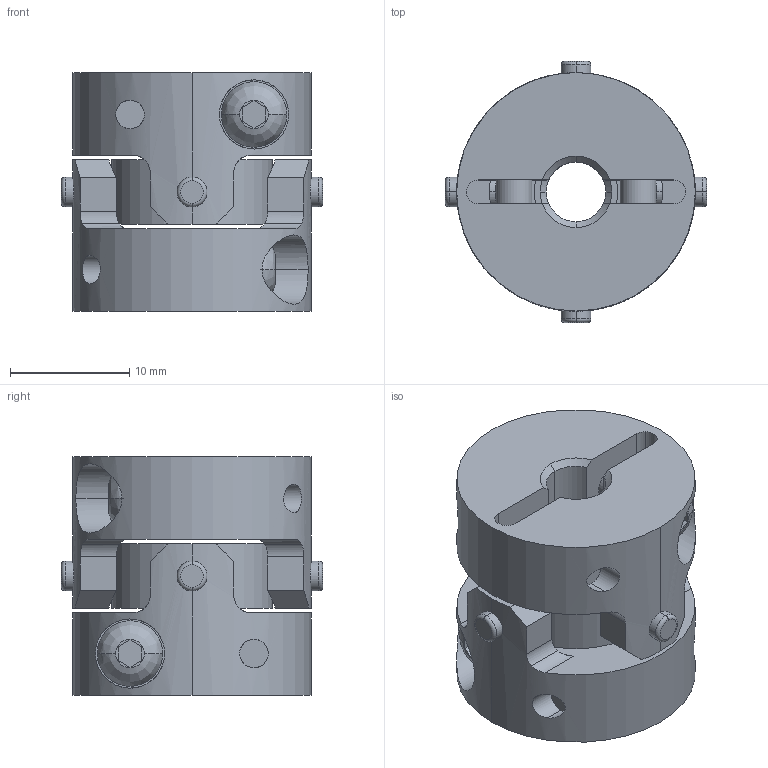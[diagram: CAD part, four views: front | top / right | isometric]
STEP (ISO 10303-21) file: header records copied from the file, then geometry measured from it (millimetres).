
FILE_DESCRIPTION((''),'2;1');
FILE_NAME('UA-20C-5×5.stp','2013-05-16T09:03:02',(''),(''),'AutoCAD STEP 2000i','AutoCAD 2000i',', , ');
FILE_SCHEMA(('CONFIG_CONTROL_DESIGN'));
Length unit declared in the file: millimetre
Products named in the file (6): UA-20C-4×4; 忣兜1; UA-2002-D04-1; BTN-M3; UA-2002-D04; UA20-SEN
Assembly tree (6 placements, depth 3):
  UA-20C-4×4
    忣兜1
    UA-2002-D04-1
      BTN-M3
    UA-2002-D04
      BTN-M3
    UA20-SEN
Bounding box: 21.89 x 21.89 x 20 mm (x, y, z)
Volume: 4536.8 mm3; surface area: 3872.9 mm2
Topology: 1 solids, 1 shells, 206 faces, 554 edges, 364 vertices
Faces by surface type: cylinder 96, plane 78, cone 16, bspline 8, torus 8
Entity records: 8011 total; most frequent: CARTESIAN_POINT 2695, ORIENTED_EDGE 1108, DIRECTION 1064, EDGE_CURVE 554, AXIS2_PLACEMENT_3D 409, VERTEX_POINT 364, VECTOR 246, LINE 246
